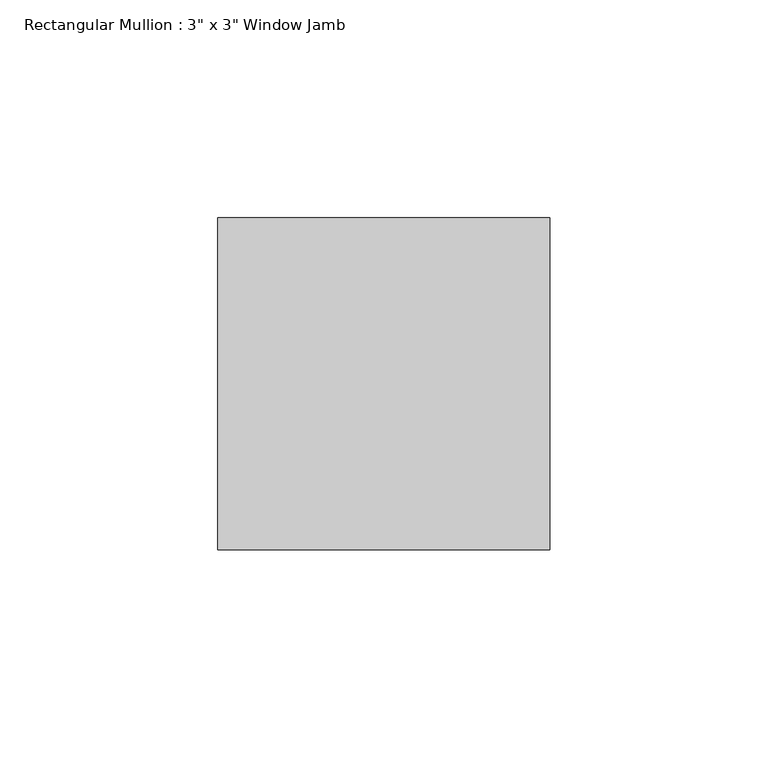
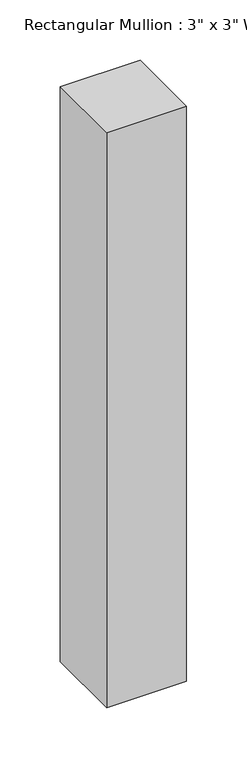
"""IFC4 building model written with IfcOpenShell, lengths in millimetres: member geometry."""

from ifc_helpers import new_model, si_unit, frame, origin, place, context, project, spatial, polyline, outline, extrude, source, transform, mapped, element, save


def member_fd366a57(model_context):
    return source(origin(), model_context, "Body", "SweptSolid", [
        extrude(outline(polyline([(0.0, 50.8), (0.0, -25.4), (-76.2, -25.4), (-76.2, 50.8), (0.0, 50.8)])), frame((0.0, 0.0, -580.5998817), z_axis=(0.0, 0.0, 1.0), x_axis=(1.0, 0.0, 0.0)), (0.0, 0.0, 1.0), 580.5998817),
    ])


if __name__ == "__main__":
    model = new_model("IFC4")
    model_context = context("Model", 3, world=origin())
    ifc_project = project(units=[si_unit("LENGTHUNIT", "METRE", prefix="MILLI")], contexts=[model_context])
    site = spatial("IfcSite", under=ifc_project)
    building = spatial("IfcBuilding", under=site)
    placement = place(None, origin())
    member_shape = member_fd366a57(model_context)
    element("IfcMember", 1, ObjectType="Rectangular Mullion : 3\" x 3\" Window Jamb", at=placement, inside=building, context=model_context, shape_type="MappedRepresentation", body=[
        mapped(member_shape, transform((0.0, 0.0, 0.0), x_axis=(1.0, 0.0, 0.0), y_axis=(0.0, 1.0, 0.0), z_axis=(0.0, 0.0, 1.0))),
    ])
    save(model, "model.ifc")
